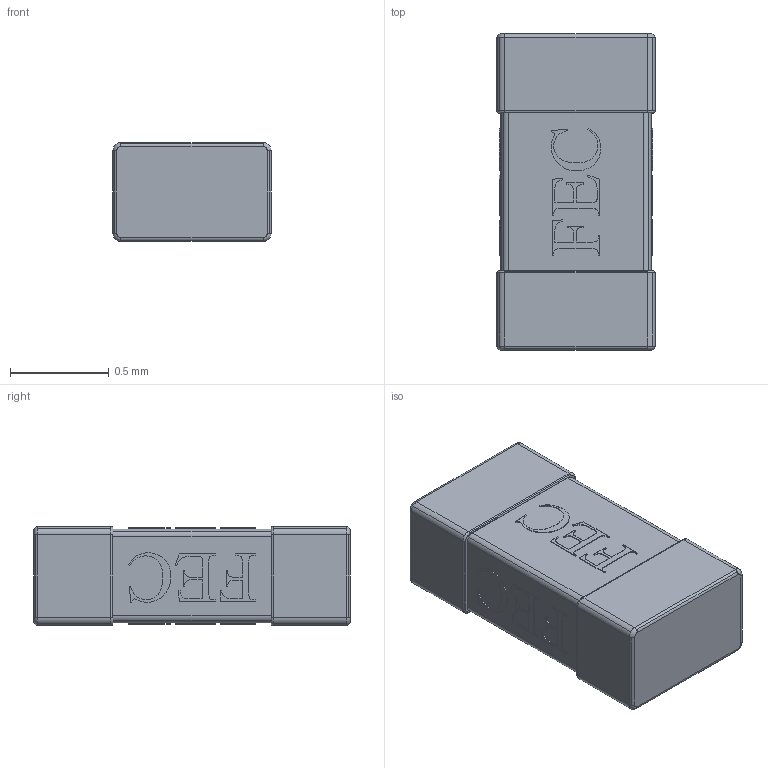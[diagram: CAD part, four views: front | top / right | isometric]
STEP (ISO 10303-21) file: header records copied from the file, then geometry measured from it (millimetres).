
FILE_DESCRIPTION(('STEP AP214'),'1');
FILE_NAME('tmp0.step','2023-08-10T13:01:05',(' '),(' '),'Spatial InterOp 3D',' ',' ');
FILE_SCHEMA(('AUTOMOTIVE_DESIGN { 1 0 10303 214 1 1 1 1 }'));
Length unit declared in the file: millimetre
Products named in the file (1): 1
Bounding box: 0.8 x 1.6 x 0.5 mm (x, y, z)
Volume: 0.6 mm3; surface area: 6.6 mm2
Topology: 15 solids, 15 shells, 1102 faces, 3184 edges, 2112 vertices
Faces by surface type: plane 1030, cylinder 56, torus 16
Entity records: 35714 total; most frequent: CARTESIAN_POINT 6413, ORIENTED_EDGE 6368, DIRECTION 5546, EDGE_CURVE 3184, LINE 3056, VECTOR 3056, VERTEX_POINT 2112, AXIS2_PLACEMENT_3D 1245
